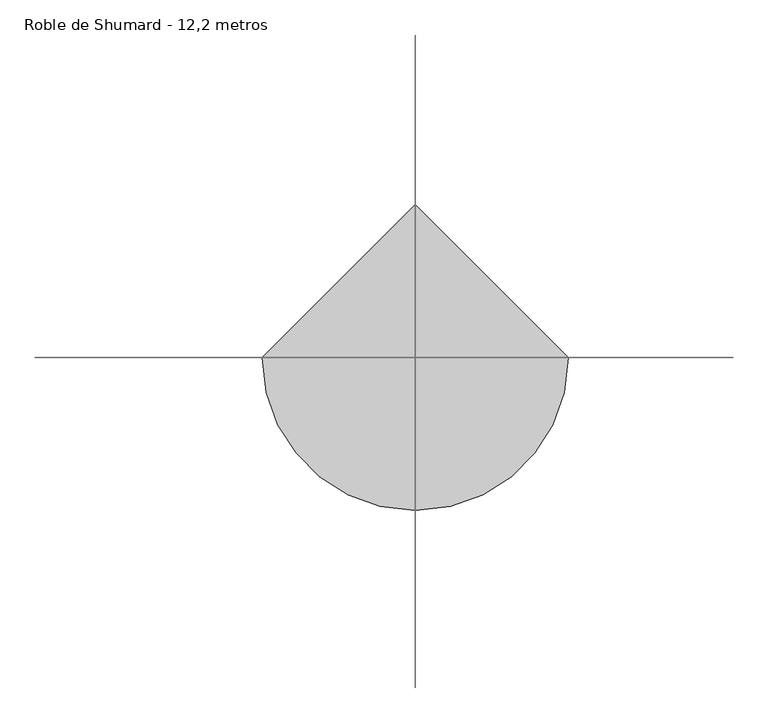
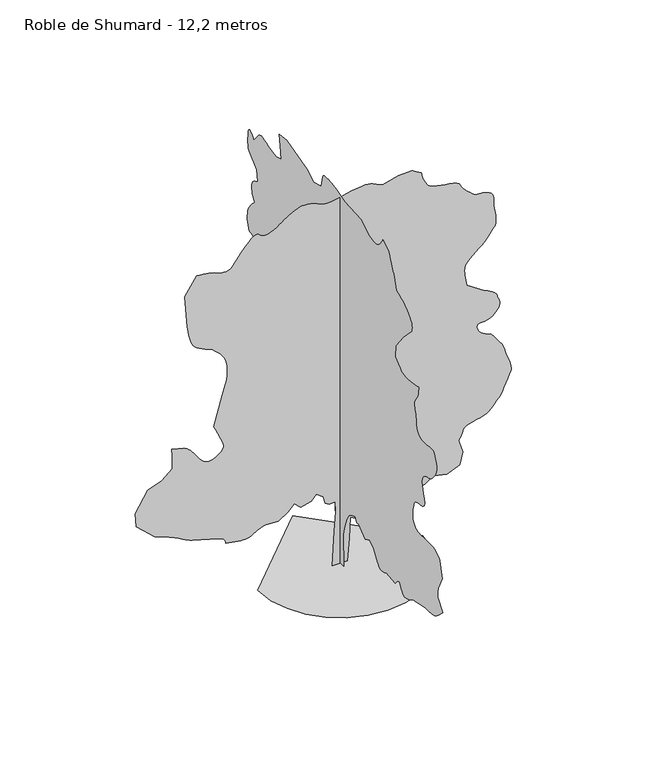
"""IFC4 building model written with IfcOpenShell, lengths in millimetres: geographic element geometry, RPC Árbol - Otoño : Roble de Shumard - 12,2 metros."""

from ifc_helpers import new_model, si_unit, origin, place, context, project, spatial, triangles, source, transform, mapped, element, save


def roble_de_shumard_12_2_metros_2cefd2b4(model_context):
    return source(origin(), model_context, "Body", "Tessellation", [
        triangles([(-0.0022625, 219.6431158, 0.0114771), (-0.0022625, -202.2794954, 0.0114771), (-0.0022625, -165.5900743, 1045.6450413), (-0.0022625, -238.967881, 1357.5020233), (-0.0022625, -349.0363624, 1651.0131775), (-0.0022625, -477.4462206, 1852.8008606), (-0.0022625, -624.2018703, 1944.5243317), (-0.0022625, -807.6463417, 2017.9021202), (-0.0022625, -881.0241302, 1852.8008606), (-0.0022625, -1009.4365683, 1889.4897549), (-0.0022625, -1156.1921453, 1742.7341778), (-0.0022625, -1357.9797558, 1614.3242832), (-0.0022625, -1596.4563332, 1724.390966), (-0.0022625, -1816.5898441, 1577.6353889), (-0.0022625, -1963.347892, 1320.813129), (-0.0022625, -1998.8601139, 1270.1095379), (-0.0022625, -2035.172723, 1221.8153927), (-0.0022625, -2073.0919201, 1178.3351252), (-0.0022625, -2113.4178017, 1142.0732397), (-0.0022625, -2156.9514816, 1115.4391096), (-0.0022625, -2204.4982887, 1100.8398554), (-0.0022625, -2256.8565754, 1100.6771473), (-0.0022625, -2307.0773472, 1109.6111223), (-0.0022625, -2348.6335316, 1120.4665644), (-0.0022625, -2382.9687904, 1132.9283037), (-0.0022625, -2411.5295471, 1146.673613), (-0.0022625, -2435.7565567, 1161.3822355), (-0.0022625, -2457.0965332, 1176.7312986), (-0.0022625, -2476.9900864, 1192.400691), (-0.0022625, -2953.9455666, 1137.368585), (-0.0022625, -3000.9665337, 1191.6508821), (-0.0022625, -3046.9959915, 1241.4421017), (-0.0022625, -3091.1191704, 1282.250948), (-0.0022625, -3132.3704315, 1309.5815472), (-0.0022625, -3169.7582657, 1318.9398422), (-0.0022625, -3202.3170341, 1305.8375896), (-0.0022625, -3229.1060966, 1265.7784069), (-0.0022625, -3256.0221863, 1208.176763), (-0.0022625, -3289.3434082, 1148.6510359), (-0.0022625, -3328.7392593, 1092.015176), (-0.0022625, -3373.9553947, 1043.0779741), (-0.0022625, -3424.5854439, 1006.6559967), (-0.0022625, -3480.3747711, 987.5629761), (-0.0022625, -3540.9681656, 990.6104645), (-0.0022625, -3601.7138763, 1008.4757984), (-0.0022625, -3658.62174, 1030.189226), (-0.0022625, -3712.3268921, 1055.1127773), (-0.0022625, -3763.4653404, 1082.6008524), (-0.0022625, -3812.6719299, 1112.0180248), (-0.0022625, -3860.5820869, 1142.7162237), (-0.0022625, -3907.8571083, 1174.0574793), (-0.0022625, -4568.2572052, 1302.4674465), (-0.0022625, -4650.6327003, 1302.6274658), (-0.0022625, -4731.8640793, 1303.7509438), (-0.0022625, -4810.8589668, 1306.8009029), (-0.0022625, -4886.4732468, 1312.7357151), (-0.0022625, -4957.6148346, 1322.5236351), (-0.0022625, -5023.1387421, 1337.1228893), (-0.0022625, -5081.9020157, 1357.5020233), (-0.0022625, -5138.5299545, 1386.9699921), (-0.0022625, -5198.0559723, 1427.026704), (-0.0022625, -5259.9963776, 1475.9104935), (-0.0022625, -5323.8680603, 1531.8524277), (-0.0022625, -5389.1634933, 1593.0912769), (-0.0022625, -5455.4245651, 1657.8578178), (-0.0022625, -5522.1687469, 1724.390966), (-0.0022625, -5265.3588409, 2017.9021202), (-0.0022625, -5257.7087265, 2072.8808865), (-0.0022625, -5251.3288834, 2127.5393234), (-0.0022625, -5247.5419052, 2181.5572472), (-0.0022625, -5247.5930649, 2234.6120029), (-0.0022625, -5252.7776321, 2286.3831161), (-0.0022625, -5264.3932022, 2336.5504028), (-0.0022625, -5283.6844666, 2384.7912083), (-0.0022625, -5485.4924973, 2806.7071701), (-0.0022625, -5357.0625458, 3320.3516899), (-0.0022625, -5347.0224609, 3334.5342545), (-0.0022625, -5317.0562668, 3370.8547119), (-0.0022625, -5267.544754, 3419.9848526), (-0.0022625, -5198.7675568, 3472.673497), (-0.0022625, -5111.0548874, 3519.5671463), (-0.0022625, -5004.7369583, 3551.3890411), (-0.0022625, -4880.1195648, 3558.8359703), (-0.0022625, -4741.2681564, 3553.0662643), (-0.0022625, -4598.2742683, 3550.8041931), (-0.0022625, -4460.38908, 3551.1346962), (-0.0022625, -4336.9405106, 3553.0662643), (-0.0022625, -4237.2564789, 3555.6335495), (-0.0022625, -4170.614035, 3557.8700409), (-0.0022625, -4146.3413887, 3558.8359703), (-0.0022625, -4132.1079552, 3568.5196815), (-0.0022625, -4095.4317055, 3595.8427231), (-0.0022625, -4045.2594772, 3638.2628082), (-0.0022625, -3990.588105, 3693.1882347), (-0.0022625, -3940.4411659, 3758.0514267), (-0.0022625, -3903.7396271, 3830.3109695), (-0.0022625, -3889.5061935, 3907.3742889), (-0.0022625, -3892.2005058, 3984.3864487), (-0.0022625, -3899.6730148, 4058.5269814), (-0.0022625, -3911.1612671, 4130.2525452), (-0.0022625, -3925.87752, 4200.0465408), (-0.0022625, -3943.0081604, 4268.3917877), (-0.0022625, -3961.7148674, 4335.7713959), (-0.0022625, -3981.2348969, 4402.667894), (-0.0022625, -3997.2728714, 4422.2640816), (-0.0022625, -4015.2424141, 4441.3521606), (-0.0022625, -4037.0750931, 4459.4740196), (-0.0022625, -4064.6777687, 4476.1727097), (-0.0022625, -4099.9558479, 4490.9145424), (-0.0022625, -4144.8926399, 4503.2922752), (-0.0022625, -4201.3682625, 4512.7472214), (-0.0022625, -4269.6626404, 4518.5169273), (-0.0022625, -4343.421801, 4525.252272), (-0.0022625, -4414.6136765, 4540.6548203), (-0.0022625, -4475.2070709, 4572.4255554), (-0.0022625, -4517.1952057, 4628.2660423), (-0.0022625, -4532.5215958, 4715.8769737), (-0.0022625, -4513.2303314, 4842.9346252), (-0.0022625, -4473.7074532, 4986.5898102), (-0.0022625, -4437.3869957, 5118.3747894), (-0.0022625, -4409.7337418, 5237.654718), (-0.0022625, -4396.2121834, 5343.7441727), (-0.0022625, -4402.2612328, 5436.0571426), (-0.0022625, -4433.3203835, 5513.9337845), (-0.0022625, -4494.8794167, 5576.7125107), (-0.0022625, -4570.3413803, 5620.6836639), (-0.0022625, -4640.3641411, 5647.6506226), (-0.0022625, -4706.1932625, 5665.2896622), (-0.0022625, -4769.1501755, 5681.3276367), (-0.0022625, -4830.4807343, 5703.465239), (-0.0022625, -4891.5060791, 5739.4299042), (-0.0022625, -4953.4970627, 5796.846167), (-0.0022625, -5016.6571609, 5869.9190323), (-0.0022625, -5076.920343, 5947.7956741), (-0.0022625, -5129.177037, 6030.7807251), (-0.0022625, -5168.2676743, 6119.2561386), (-0.0022625, -5189.0838455, 6213.4753876), (-0.0022625, -5186.4659821, 6313.8204254), (-0.0022625, -5155.2795135, 6420.5703049), (-0.0022625, -5117.6376251, 6521.5501877), (-0.0022625, -5092.1699936, 6603.9003937), (-0.0022625, -5068.6342209, 6667.0099136), (-0.0022625, -5036.7617477, 6710.2177414), (-0.0022625, -4986.2845963, 6732.9151932), (-0.0022625, -4906.9086273, 6734.4145203), (-0.0022625, -4788.3905708, 6714.081459), (-0.0022625, -4647.7857811, 6691.613063), (-0.0022625, -4512.6457741, 6687.1145004), (-0.0022625, -4388.3838821, 6700.6107697), (-0.0022625, -4280.515757, 6732.0507111), (-0.0022625, -4194.4803108, 6781.4610672), (-0.0022625, -4135.691748, 6848.8656738), (-0.0022625, -4109.6395592, 6934.214534), (-0.0022625, -4100.7183014, 7025.3589706), (-0.0022625, -4089.8654755, 7110.7078308), (-0.0022625, -4077.3860046, 7191.2529144), (-0.0022625, -4063.6609703, 7267.9348618), (-0.0022625, -4048.9447174, 7341.7448914), (-0.0022625, -4033.5930382, 7413.6230621), (-0.0022625, -4017.9364357, 7484.5355942), (-0.0022625, -4002.6864944, 7535.6737518), (-0.0022625, -3990.3340508, 7586.9648071), (-0.0022625, -3983.7510223, 7638.5854935), (-0.0022625, -3985.8351974, 7690.6642914), (-0.0022625, -3999.4840736, 7743.4040955), (-0.0022625, -4027.5439888, 7796.9310608), (-0.0022625, -4072.9636002, 7851.4242462), (-0.0022625, -4121.5091835, 7918.2957458), (-0.0022625, -4158.2107224, 8002.1452789), (-0.0022625, -4184.6187035, 8093.0606598), (-0.0022625, -4202.3850609, 8181.1035416), (-0.0022625, -4213.0852798, 8256.2861618), (-0.0022625, -4218.3212975, 8308.7201706), (-0.0022625, -4219.7191772, 8328.392807), (-0.0022625, -4192.6504807, 8322.3437576), (-0.0022625, -4120.0351456, 8306.9923691), (-0.0022625, -4014.6578568, 8286.5064102), (-0.0022625, -3889.4047462, 8265.0803925), (-0.0022625, -3757.085788, 8246.830925), (-0.0022625, -3630.5618248, 8235.9780991), (-0.0022625, -3522.6172508, 8236.6641037), (-0.0022625, -3431.4986847, 8252.549762), (-0.0022625, -3346.1242447, 8282.8717484), (-0.0022625, -3265.5788704, 8325.2412552), (-0.0022625, -3188.8969231, 8377.2183151), (-0.0022625, -3115.0871841, 8436.439119), (-0.0022625, -3043.2090134, 8500.4381195), (-0.0022625, -2972.2964813, 8566.8770874), (-0.0022625, -2990.6473961, 8952.1169449), (-0.0022625, -3394.2125885, 9465.7617554), (-0.0022625, -3852.8299438, 9942.7047363), (-0.0022625, -3859.9975296, 10001.8488007), (-0.0022625, -3862.9967651, 10062.1369812), (-0.0022625, -3857.6337204, 10124.6622345), (-0.0022625, -3839.7659157, 10190.5419342), (-0.0022625, -3805.2247101, 10260.9201965), (-0.0022625, -3749.8164642, 10336.9167206), (-0.0022625, -3669.3728279, 10419.6732971), (-0.0022625, -3575.0262611, 10499.1765839), (-0.0022625, -3480.7052742, 10566.1992371), (-0.0022625, -3386.3587074, 10622.777179), (-0.0022625, -3292.0121407, 10671.0184204), (-0.0022625, -3197.6655739, 10713.0065552), (-0.0022625, -3103.3192978, 10750.8263397), (-0.0022625, -3008.972731, 10786.5369507), (-0.0022625, -2981.4465042, 10880.6288818), (-0.0022625, -2953.7423813, 10973.0941681), (-0.0022625, -2925.7077553, 11062.3573242), (-0.0022625, -2897.1903099, 11146.8172852), (-0.0022625, -2868.063018, 11224.8462433), (-0.0022625, -2838.0968239, 11294.8431335), (-0.0022625, -2807.1899895, 11355.2336334), (-0.0022625, -2772.9031288, 11421.0621735), (-0.0022625, -2735.1086334, 11502.2944244), (-0.0022625, -2696.9580551, 11589.6507202), (-0.0022625, -2661.7308449, 11673.7804688), (-0.0022625, -2632.5779732, 11745.3784241), (-0.0022625, -2612.7274406, 11795.1695709), (-0.0022625, -2605.4075386, 11813.8509888), (-0.0022625, -2293.5480858, 11997.2828156), (-0.0022625, -2277.5558933, 11965.664978), (-0.0022625, -2259.9600197, 11933.1053375), (-0.0022625, -2239.1538769, 11898.6155823), (-0.0022625, -2213.5365452, 11861.2271667), (-0.0022625, -2181.5014366, 11819.9761963), (-0.0022625, -2141.4422539, 11773.9464478), (-0.0022625, -2091.7577866, 11722.1228668), (-0.0022625, -2031.9118755, 11677.2372345), (-0.0022625, -1963.4013771, 11650.6760651), (-0.0022625, -1887.6699532, 11639.3151306), (-0.0022625, -1806.1614109, 11640.1790314), (-0.0022625, -1720.3217377, 11650.1935364), (-0.0022625, -1631.594886, 11666.2820892), (-0.0022625, -1541.4243725, 11685.4204559), (-0.0022625, -1137.8464628, 11960.5815674), (-0.0022625, -257.3128368, 12015.634021), (-0.0022625, -143.5556452, 12046.9216461), (-0.0022625, -31.2426242, 12077.2430511), (-0.0022625, 78.1820465, 12105.6343414), (-0.0022625, 183.2749686, 12131.1525513), (-0.0022625, 282.5922167, 12152.8070435), (-0.0022625, 374.689375, 12169.6583405), (-0.0022625, 458.1194206, 12180.7402222), (-0.0022625, 540.3752646, 12189.1780792), (-0.0022625, 626.4842165, 12196.6764587), (-0.0022625, 711.307164, 12199.9809082), (-0.0022625, 789.7123346, 12195.9137146), (-0.0022625, 856.563196, 12181.2739105), (-0.0022625, 906.7304827, 12152.8070435), (-0.0022625, 935.0776623, 12107.3365631), (-0.0022625, 1026.7986626, 11740.4729095), (-0.0022625, 1430.3764996, 11630.3935822), (-0.0022625, 1797.2655876, 11850.5278198), (-0.0022625, 2255.8780014, 11960.5815674), (-0.0022625, 2861.2512245, 12144.038974), (-0.0022625, 3264.8164169, 12089.0109375), (-0.0022625, 3228.1401672, 11740.4729095), (-0.0022625, 3154.7623787, 11336.882428), (-0.0022625, 3448.2735329, 11245.154306), (-0.0022625, 3741.7849777, 11300.1811798), (-0.0022625, 3855.2702019, 11342.8297394), (-0.0022625, 3965.7053215, 11381.7424805), (-0.0022625, 4070.0405228, 11413.310321), (-0.0022625, 4165.251281, 11433.7962799), (-0.0022625, 4248.2619118, 11439.5145355), (-0.0022625, 4316.0226013, 11426.7815918), (-0.0022625, 4365.4835358, 11391.9093018), (-0.0022625, 4640.6437752, 11061.7224792), (-0.0022625, 4703.1687378, 11134.820343), (-0.0022625, 4763.4569183, 11198.4641327), (-0.0022625, 4819.2209564, 11243.1718689), (-0.0022625, 4868.2752296, 11259.4894775), (-0.0022625, 4908.3317963, 11237.936142), (-0.0022625, 4937.1544556, 11169.0566254), (-0.0022625, 4952.5058441, 11043.3712738), (-0.0022625, 4957.1573044, 10903.7832825), (-0.0022625, 4956.038768, 10795.9666077), (-0.0022625, 4950.1164551, 10714.6076202), (-0.0022625, 4940.3060074, 10654.4461761), (-0.0022625, 4927.6486404, 10610.1709717), (-0.0022625, 4913.0338348, 10576.4683777), (-0.0022625, 4897.4789703, 10548.0782501), (-0.0022625, 4475.5628632, 10199.5146423), (-0.0022625, 4438.8613243, 9814.2997833), (-0.0022625, 4497.5481491, 9790.3826385), (-0.0022625, 4554.4307236, 9764.5597961), (-0.0022625, 4607.8056633, 9734.8726547), (-0.0022625, 4655.8937164, 9699.4166794), (-0.0022625, 4696.9162125, 9656.2588486), (-0.0022625, 4729.1191887, 9603.4690475), (-0.0022625, 4750.7231026, 9539.1136734), (-0.0022625, 4758.9583557, 9468.3796188), (-0.0022625, 4753.7223381, 9397.6194031), (-0.0022625, 4737.2524132, 9326.8597687), (-0.0022625, 4711.7850723, 9256.0995529), (-0.0022625, 4679.5820961, 9185.3399185), (-0.0022625, 4642.9058464, 9114.5802841), (-0.0022625, 4603.9675255, 9043.8200684), (-0.0022625, 4662.6799301, 8984.8283203), (-0.0022625, 4719.9691658, 8925.6836746), (-0.0022625, 4774.3606133, 8866.2088165), (-0.0022625, 4824.4313942, 8806.2508484), (-0.0022625, 4868.70718, 8745.6574539), (-0.0022625, 4905.7645111, 8684.2763168), (-0.0022625, 4934.15522, 8621.9039612), (-0.0022625, 4954.5394409, 8561.1582504), (-0.0022625, 4969.1536652, 8504.2506775), (-0.0022625, 4978.9391144, 8450.5452347), (-0.0022625, 4984.8614273, 8399.407077), (-0.0022625, 4987.9112411, 8350.2001968), (-0.0022625, 4989.0297775, 8302.2903305), (-0.0022625, 4989.2076736, 8255.0153091), (-0.0022625, 4879.1277649, 7943.1529495), (-0.0022625, 4828.0660561, 7934.9691467), (-0.0022625, 4777.1310837, 7924.8784836), (-0.0022625, 4726.5519035, 7910.8996857), (-0.0022625, 4676.4305443, 7891.1758896), (-0.0022625, 4626.9696098, 7863.7264023), (-0.0022625, 4578.2967087, 7826.6687805), (-0.0022625, 4530.5897369, 7778.0467484), (-0.0022625, 4487.1528534, 7720.3508514), (-0.0022625, 4450.4766037, 7657.8261795), (-0.0022625, 4419.3921638, 7591.3110535), (-0.0022625, 4392.8062866, 7521.5676361), (-0.0022625, 4369.601017, 7449.4098312), (-0.0022625, 4348.6322388, 7375.6509613), (-0.0022625, 4328.8072861, 7301.1037674), (-0.0022625, 4285.8532219, 7242.1120193), (-0.0022625, 4244.6781189, 7182.9673737), (-0.0022625, 4207.0106506, 7123.4925156), (-0.0022625, 4174.6553581, 7063.5345474), (-0.0022625, 4149.3659134, 7002.941153), (-0.0022625, 4132.8959885, 6941.5350174), (-0.0022625, 4126.9992554, 6879.1876602), (-0.0022625, 4145.3501701, 6383.8684753), (-0.0022625, 4188.3042343, 6379.5478088), (-0.0022625, 4229.4790466, 6372.8121735), (-0.0022625, 4267.1465149, 6361.2477631), (-0.0022625, 4299.5018074, 6342.4901871), (-0.0022625, 4324.7915428, 6314.0744797), (-0.0022625, 4341.2614677, 6273.6618301), (-0.0022625, 4347.132621, 6218.7872726), (-0.0022625, 4345.5312653, 6155.3475403), (-0.0022625, 4341.0579918, 6090.9671677), (-0.0022625, 4334.144751, 6025.7734726), (-0.0022625, 4325.3252312, 5959.9193527), (-0.0022625, 4315.0569626, 5893.6071213), (-0.0022625, 4303.8227646, 5826.9646774), (-0.0022625, 4292.1057472, 5760.1699173), (-0.0022625, 4273.7548325, 5393.2806839), (-0.0022625, 4622.3184402, 5411.6318893), (-0.0022625, 5007.5327179, 5485.0093872), (-0.0022625, 5089.5271317, 5457.254686), (-0.0022625, 5168.1403564, 5428.0506546), (-0.0022625, 5240.0441071, 5395.949707), (-0.0022625, 5301.8066162, 5359.5275116), (-0.0022625, 5350.0978546, 5317.3359009), (-0.0022625, 5381.5383774, 5267.9261261), (-0.0022625, 5392.7725754, 5209.8238586), (-0.0022625, 5389.5698639, 5136.2428848), (-0.0022625, 5380.5727386, 5043.3956451), (-0.0022625, 5366.7968353, 4934.5110123), (-0.0022625, 5349.1322159, 4812.790535), (-0.0022625, 5328.5956787, 4681.4375061), (-0.0022625, 5306.1272827, 4543.6540558), (-0.0022625, 5282.7188278, 4402.667894), (-0.0022625, 5117.6120453, 3962.4011627), (-0.0022625, 5027.4338287, 3911.8219826), (-0.0022625, 4938.704361, 3864.2676178), (-0.0022625, 4852.8726814, 3822.8131714), (-0.0022625, 4771.3616684, 3790.5084572), (-0.0022625, 4695.6453598, 3770.4038704), (-0.0022625, 4627.1222168, 3765.5495155), (-0.0022625, 4567.2659866, 3778.9693359), (-0.0022625, 4053.6214668, 3999.1027016), (-0.0022625, 3539.976947, 3833.9965004), (-0.0022625, 3173.0877136, 3577.1868851), (-0.0022625, 2806.1987709, 3026.8405357), (-0.0022625, 2770.6919266, 2972.1438744), (-0.0022625, 2734.3967583, 2919.3537827), (-0.0022625, 2696.4752357, 2870.4012474), (-0.0022625, 2656.139035, 2827.2437073), (-0.0022625, 2612.6004135, 2791.7877319), (-0.0022625, 2565.0713379, 2765.9643082), (-0.0022625, 2512.7004066, 2751.6802963), (-0.0022625, 2460.4463287, 2746.9273888), (-0.0022625, 2411.4049908, 2747.283181), (-0.0022625, 2362.0407074, 2751.1971863), (-0.0022625, 2308.8259323, 2757.0177612), (-0.0022625, 2248.2302124, 2763.1685486), (-0.0022625, 2176.7230946, 2768.0484833), (-0.0022625, 2090.7767418, 2770.0309204), (-0.0022625, 1998.5727768, 2763.0668106), (-0.0022625, 1910.2195942, 2743.5976501), (-0.0022625, 1825.0763901, 2713.7076141), (-0.0022625, 1742.5003258, 2675.4555885), (-0.0022625, 1661.8482719, 2630.9766174), (-0.0022625, 1582.4798607, 2582.3037163), (-0.0022625, 1503.7542881, 2531.54664), (-0.0022625, 1393.6876053, 2219.6898033), (-0.0022625, 1081.8332394, 1871.1465431), (-0.0022625, 1038.7800533, 1824.5095642), (-0.0022625, 988.986363, 1778.8358986), (-0.0022625, 933.5781172, 1733.9629108), (-0.0022625, 873.678721, 1689.7329071), (-0.0022625, 810.4091091, 1645.9857227), (-0.0022625, 744.8926867, 1602.5563969), (-0.0022625, 678.2554024, 1559.2897064), (-0.0022625, 568.1886832, 1944.5243317), (-0.0022625, 384.7416321, 2201.3467369), (-0.0022625, 311.366387, 2036.245332), (-0.0022625, 256.3317557, 1779.4230721), (-0.0022625, 237.9878172, 1320.813129), (-0.0022625, 201.2984143, 678.7560986), (227.2986078, 0.0005818, 0.0290512), (-249.6563274, 0.0005818, 0.0290512), (-176.2793019, 0.0005163, 1100.6949514), (-139.5901442, 0.0004777, 1742.7519093), (-157.9346004, 0.0004581, 2072.952103), (-341.3808703, 0.0004592, 2054.6088913), (-469.7907649, 0.000455, 2127.9866798), (-524.8228346, 0.0004406, 2366.4632572), (-744.9587437, 0.0004319, 2513.2189796), (-891.7143934, 0.0004417, 2348.1175747), (-1221.9118984, 0.0004473, 2256.3965744), (-1423.7021976, 0.0004364, 2439.8411911), (-1625.4898808, 0.0004483, 2238.0508919), (-1919.0010349, 0.0004592, 2054.6088913), (-2359.2703823, 0.0004581, 2072.952103), (-2579.4062187, 0.0004637, 1981.2284866), (-2626.6812401, 0.0004658, 1946.0925499), (-2674.5916878, 0.0004679, 1912.3978043), (-2723.7982773, 0.0004697, 1881.5928532), (-2774.9364349, 0.0004711, 1855.1188877), (-2828.6415871, 0.0004725, 1834.4220406), (-2885.5241615, 0.0004732, 1820.9436481), (-2946.2951614, 0.0004735, 1816.1296978), (-3014.0052727, 0.0004735, 1818.2698288), (-3090.3820061, 0.0004732, 1824.2579807), (-3173.9774849, 0.0004725, 1833.4588726), (-3263.342379, 0.0004718, 1845.2241428), (-3357.0279396, 0.0004711, 1858.9160397), (-3453.6365776, 0.00047, 1873.8915791), (-3551.6683846, 0.0004693, 1889.5076317), (-3556.192527, 0.0004669, 1928.7101807), (-3564.4530693, 0.0004644, 1967.2697456), (-3580.0588028, 0.0004623, 2004.5482841), (-3606.746418, 0.0004602, 2039.9003414), (-3648.2008644, 0.0004581, 2072.6851135), (-3708.0823837, 0.0004564, 2102.2599072), (-3790.1273758, 0.000455, 2127.9866798), (-4597.2830498, 0.0004406, 2366.4632572), (-4663.1883293, 0.0004396, 2387.3760796), (-4733.5668823, 0.0004378, 2416.9508732), (-4806.1822174, 0.0004357, 2452.6229691), (-4878.8231323, 0.0004333, 2491.8258087), (-4949.2013947, 0.0004308, 2531.991671), (-5015.1072556, 0.0004287, 2570.5614098), (-5074.2513199, 0.0004266, 2604.9500084), (-5137.8439499, 0.0004245, 2637.9915962), (-5216.8385468, 0.0004224, 2673.9306816), (-5308.668988, 0.00042, 2712.2844452), (-5410.7674072, 0.0004179, 2752.5444878), (-5520.5676819, 0.0004154, 2794.2785683), (-5635.5013641, 0.0004126, 2836.9529984), (-5753.0023315, 0.0004101, 2880.1102478), (-6321.6740158, 0.0003783, 3412.1056824), (-6358.3502655, 0.000352, 3852.3727043), (-5973.1359879, 0.0003149, 4476.0712624), (-5532.8692566, 0.0003051, 4641.1774635), (-5202.6562729, 0.0002886, 4916.3377029), (-5202.6562729, 0.0002637, 5338.2538101), (-5221.006897, 0.0002504, 5558.3874664), (-4835.7673302, 0.000256, 5466.684343), (-4792.4066048, 0.0002578, 5438.7005859), (-4748.2069771, 0.0002595, 5407.9972275), (-4702.4315735, 0.0002616, 5371.8546661), (-4654.2417824, 0.0002641, 5327.5027222), (-4602.8492798, 0.0002676, 5272.2723724), (-4547.4410339, 0.0002718, 5203.3934372), (-4487.2290115, 0.0002767, 5118.1207352), (-4426.2036667, 0.000282, 5028.5523651), (-4367.4151039, 0.0002869, 4949.5577682), (-4308.6518303, 0.0002907, 4882.7624268), (-4247.6264854, 0.0002939, 4829.7435699), (-4182.102578, 0.0002963, 4792.1522598), (-4109.8430351, 0.0002974, 4771.5648537), (-4028.6113655, 0.0002974, 4769.5824165), (-3939.7804504, 0.0002963, 4789.9157684), (-3850.3138184, 0.0002939, 4831.0905807), (-3766.2863892, 0.0002904, 4887.032515), (-3693.823661, 0.0002865, 4951.6419434), (-3638.9999725, 0.0002827, 5018.8180756), (-3607.9155327, 0.0002788, 5082.4612839), (-3606.695549, 0.0002756, 5136.4713593), (-3628.2997536, 0.0002721, 5194.8788406), (-3660.5024391, 0.0002676, 5273.4926468), (-3701.5249352, 0.0002616, 5368.9571686), (-3749.5876991, 0.0002553, 5477.918541), (-3802.9626389, 0.0002483, 5596.9699951), (-3859.8705025, 0.0002406, 5722.7565033), (-3918.557618, 0.0002329, 5851.8986206), (-3661.7224228, 0.0001772, 6787.4845367), (-3626.5966599, 0.0001709, 6893.3699341), (-3592.8943565, 0.0001646, 6997.8327438), (-3562.0892601, 0.0001587, 7099.3974747), (-3535.6051208, 0.0001527, 7196.6159592), (-3514.9159767, 0.0001475, 7288.0650284), (-3501.4452873, 0.0001422, 7372.2959335), (-3496.6159309, 0.000138, 7447.8849243), (-3497.8614944, 0.0001334, 7521.6182144), (-3501.9789757, 0.0001289, 7599.8762283), (-3509.6293808, 0.000124, 7680.3707336), (-3521.4481361, 0.0001191, 7760.865239), (-3538.070668, 0.0001145, 7839.097673), (-3560.157692, 0.00011, 7912.856543), (-3588.3446342, 0.0001061, 7979.8547791), (-3624.6142227, 0.0001023, 8042.2271347), (-3669.5254349, 9.88e-05, 8103.6338516), (-3721.6803909, 9.53e-05, 8164.2266647), (-3779.6047623, 9.14e-05, 8224.1846329), (-3841.8500908, 8.79e-05, 8283.6344925), (-3906.9929169, 8.44e-05, 8342.8041367), (-3973.5844917, 8.09e-05, 8401.7958847), (-4079.2667038, 7.85e-05, 8445.1060318), (-4182.2040253, 7.57e-05, 8488.8987076), (-4279.7024345, 7.32e-05, 8533.6831833), (-4369.0417488, 7.04e-05, 8579.8902466), (-4447.4264992, 6.76e-05, 8628.0297501), (-4512.213533, 6.44e-05, 8678.5580612), (-4560.6068001, 6.13e-05, 8731.9832886), (-4598.6809296, 5.71e-05, 8803.2266144), (-4633.8831413, 5.15e-05, 8899.8096725), (-4665.5265587, 4.48e-05, 9011.1598526), (-4693.0274963, 3.78e-05, 9126.6783829), (-4715.6990776, 3.12e-05, 9235.7920715), (-4732.931456, 2.59e-05, 9327.8765671), (-4744.0386269, 2.21e-05, 9392.3836761), (-4817.4164154, -3.92e-05, 10419.6732971), (-4450.5274727, -7.32e-05, 10988.3444), (-4352.4956657, -7.25e-05, 10976.4241974), (-4255.9123169, -7.18e-05, 10963.6900909), (-4162.2011765, -7.08e-05, 10949.3549194), (-4072.8362823, -6.97e-05, 10932.6315216), (-3989.2410942, -6.86e-05, 10912.6792511), (-3912.88965, -6.72e-05, 10888.7109467), (-3845.1795387, -6.55e-05, 10859.939447), (-3776.3261833, -6.37e-05, 10832.1341675), (-3698.8306229, -6.27e-05, 10812.6644257), (-3617.497506, -6.2e-05, 10803.1336121), (-3537.1047386, -6.23e-05, 10805.1672089), (-3462.5069664, -6.3e-05, 10820.3662811), (-3398.482386, -6.48e-05, 10850.3063141), (-3349.8603539, -6.76e-05, 10896.6418579), (-3056.3491997, -9.07e-05, 11281.8555542), (-2977.9644493, -9.6e-05, 11371.601239), (-2900.8249718, -0.0001012, 11457.3320526), (-2826.2780685, -0.0001058, 11535.0563782), (-2755.5690125, -0.0001096, 11600.7326019), (-2689.9939453, -0.0001128, 11650.3714325), (-2630.8495903, -0.0001145, 11679.9312561), (-2579.4062187, -0.0001149, 11685.4460358), (-2538.0075829, -0.0001138, 11671.6445526), (-2504.3128372, -0.0001124, 11649.1773193), (-2472.5447182, -0.000111, 11622.8707855), (-2436.9258167, -0.0001096, 11597.5304718), (-2391.6791599, -0.0001082, 11577.9339935), (-2331.0324257, -0.0001079, 11568.9624481), (-2249.2036995, -0.0001082, 11575.3667084), (-2151.4361206, -0.00011, 11603.1975677), (-2051.1038727, -0.0001124, 11649.6086884), (-1954.6199364, -0.0001159, 11706.3133667), (-1868.4067394, -0.0001194, 11764.9237427), (-1798.8794426, -0.0001226, 11817.1298584), (-1752.4585842, -0.0001247, 11854.542691), (-1735.5565636, -0.0001257, 11868.8778625), (-1714.8597164, -0.0001264, 11882.1456573), (-1659.8251396, -0.0001285, 11916.5854156), (-1581.0463726, -0.0001313, 11964.1906494), (-1489.1092518, -0.0001345, 12016.9304535), (-1394.6077526, -0.0001373, 12066.7715973), (-1308.1277115, -0.0001398, 12105.7099182), (-1240.2575809, -0.0001408, 12125.7133484), (-1175.8646364, -0.0001412, 12130.1607513), (-1095.7488871, -0.0001412, 12127.5178894), (-1004.4014832, -0.0001405, 12117.5289642), (-906.3136477, -0.0001394, 12099.8137665), (-805.9815451, -0.000138, 12074.0920807), (-707.8937096, -0.0001359, 12040.0336945), (-616.5463783, -0.0001334, 11997.3083954), (-519.3684073, -0.0001313, 11962.4372681), (-402.9373964, -0.0001306, 11949.7031616), (-270.4608533, -0.0001306, 11955.4214172), (-125.1499373, -0.000132, 11975.9073761), (29.7882867, -0.0001338, 12007.4496368), (191.1444737, -0.0001362, 12046.3879578), (355.7107733, -0.0001387, 12089.0109375), (469.3052931, -0.0001398, 12104.4134857), (580.4954175, -0.0001405, 12117.9103363), (686.8715916, -0.0001412, 12127.5178894), (786.0294926, -0.0001412, 12131.3804443), (875.5570221, -0.0001412, 12127.5178894), (953.0548353, -0.0001401, 12114.0466187), (1016.1109428, -0.0001387, 12089.0109375), (1069.0029905, -0.0001369, 12059.7057495), (1118.0468719, -0.0001355, 12034.2642792), (1163.8807022, -0.0001341, 12011.9993591), (1207.1499361, -0.0001331, 11992.3261414), (1248.4900726, -0.000132, 11974.5609467), (1288.5492554, -0.000131, 11958.0910217), (1327.9653088, -0.0001299, 11942.2559418), (1804.9210796, -0.0001376, 12070.6864746), (2226.8445992, -0.0001387, 12089.0109375), (2520.3557533, -0.0001289, 11923.9303162), (2524.5802048, -0.0001264, 11880.4934326), (2530.5708275, -0.0001236, 11835.9380127), (2540.0894325, -0.0001208, 11789.1466827), (2554.9048073, -0.000118, 11738.9741638), (2576.7883553, -0.0001145, 11684.3274994), (2607.4661339, -0.000111, 11624.0393188), (2648.768264, -0.0001072, 11557.0410828), (2690.2735794, -0.0001033, 11495.6855255), (2724.713047, -0.0001009, 11450.3929413), (2758.517379, -9.88e-05, 11416.9705627), (2798.0908356, -9.7e-05, 11391.248877), (2849.8647102, -9.6e-05, 11369.0351166), (2920.2432632, -9.46e-05, 11346.2109283), (3015.6572067, -9.28e-05, 11318.5568024), (3133.2599121, -9.14e-05, 11291.9212189), (3260.1652473, -9e-05, 11271.7143127), (3387.7312981, -8.9e-05, 11253.0840546), (3507.2655716, -8.76e-05, 11231.2760834), (3610.1014458, -8.58e-05, 11201.437207), (3687.5967155, -8.34e-05, 11158.7374878), (3731.0844681, -7.99e-05, 11098.4237274), (3763.2365753, -7.57e-05, 11028.1977814), (3810.7909401, -7.15e-05, 10958.9368927), (3871.1555695, -6.72e-05, 10890.4910706), (3941.8137566, -6.34e-05, 10822.6533508), (4020.1732178, -5.92e-05, 10755.3249023), (4103.6413788, -5.53e-05, 10688.3266663), (4189.7021141, -5.11e-05, 10621.4551666), (4310.7360054, -5.04e-05, 10609.0524353), (4426.788224, -4.97e-05, 10592.9638824), (4532.9026772, -4.83e-05, 10569.4781067), (4624.0721123, -4.62e-05, 10534.9371918), (4695.3657257, -4.31e-05, 10485.6285736), (4741.8021355, -3.92e-05, 10417.8687561), (4758.3735077, -3.4e-05, 10327.9440125), (4759.4411751, -2.84e-05, 10234.3090302), (4762.4404106, -2.35e-05, 10156.052179), (4767.0407112, -1.96e-05, 10090.6550079), (4772.9374443, -1.65e-05, 10035.5258148), (4779.774527, -1.37e-05, 9988.0728973), (4787.247036, -1.09e-05, 9945.78013), (4795.0753372, -8.8e-06, 9906.0279053), (4810.4270164, -3.2e-06, 9812.0127136), (4823.5163338, 2.5e-06, 9719.9026382), (4832.1326683, 7.7e-06, 9631.6556992), (4834.0136581, 1.26e-05, 9549.2043365), (4826.8969414, 1.72e-05, 9474.4286682), (4808.5460266, 2.1e-05, 9409.2855515), (4776.7244225, 2.42e-05, 9355.7074265), (4736.1341675, 2.73e-05, 9304.3152145), (4692.3159119, 3.08e-05, 9245.5263611), (4644.3545952, 3.47e-05, 9180.9680923), (4591.2340004, 3.85e-05, 9112.2414734), (4532.0384857, 4.27e-05, 9040.9481506), (4465.7774139, 4.73e-05, 8968.6886078), (4391.484565, 5.15e-05, 8897.0900711), (4305.2206444, 5.6e-05, 8823.2294632), (4209.0186676, 6.06e-05, 8744.234285), (4110.8595428, 6.55e-05, 8661.7067642), (4018.826207, 7.04e-05, 8577.2723831), (3940.8986961, 7.57e-05, 8492.4827911), (3885.1090782, 8.06e-05, 8409.0146301), (3859.4891304, 8.55e-05, 8328.4183868), (3855.3716492, 9e-05, 8248.7116241), (3858.0150925, 9.49e-05, 8167.0991638), (3866.2500549, 9.98e-05, 8083.8850571), (3878.9582909, 0.0001051, 7999.3745178), (3895.0724236, 0.00011, 7913.9239197), (3913.3980492, 0.0001152, 7827.8123154), (3932.8669189, 0.0001205, 7741.3960785), (4483.2132683, 0.0001422, 7374.5068451), (4504.5378387, 0.0001429, 7364.9754501), (4559.5902924, 0.0001443, 7338.7712357), (4634.8234909, 0.0001468, 7299.4009644), (4716.8173233, 0.0001496, 7250.42314), (4792.0761017, 0.0001531, 7195.3195267), (4847.1029755, 0.0001562, 7137.6747894), (4868.4531258, 0.0001597, 7080.9956909), (4879.890509, 0.0001629, 7027.4431458), (4906.0953049, 0.000166, 6973.9155991), (4934.8668045, 0.0001695, 6915.8894897), (4954.0051712, 0.0001737, 6848.8656738), (4951.3367294, 0.0001783, 6768.3711685), (4914.6604797, 0.0001842, 6669.9324097), (4831.7512962, 0.0001916, 6549.0002563), (4717.4021713, 0.0001975, 6446.0885147), (4599.8500443, 0.0002007, 6392.9423401), (4487.1272736, 0.0002021, 6371.8721146), (4387.2147675, 0.0002024, 6365.2382172), (4308.1690109, 0.0002031, 6355.4021896), (4257.996492, 0.0002049, 6324.6988312), (4244.7289879, 0.0002091, 6255.4891022), (4263.817067, 0.000214, 6169.1740219), (4303.1364693, 0.0002182, 6097.2958511), (4359.2818794, 0.0002221, 6037.4402023), (4428.9232681, 0.0002249, 5987.2165237), (4508.6806091, 0.0002273, 5944.2115906), (4595.1480057, 0.0002298, 5906.0360138), (4684.9957191, 0.0002319, 5870.2492447), (4774.7928543, 0.0002385, 5756.6625732), (4860.9041679, 0.0002452, 5645.4647095), (4939.6194214, 0.0002515, 5539.0962021), (5007.2786636, 0.0002574, 5439.9458588), (5060.170784, 0.000263, 5350.4030685), (5094.6099609, 0.0002676, 5272.9077988), (5106.912117, 0.0002711, 5209.8494385), (5121.9077133, 0.0002756, 5134.4377625), (5159.3461258, 0.0002823, 5026.6205063), (5207.9937378, 0.0002897, 4898.9021393), (5256.6663483, 0.0002977, 4763.8127106), (5294.1053421, 0.0003054, 4633.8575615), (5309.0759399, 0.0003124, 4521.541452), (5290.3689423, 0.0003173, 4439.3950127), (5246.880899, 0.0003219, 4358.265081), (5196.3531693, 0.0003285, 4248.566835), (5140.6652893, 0.0003362, 4122.1701897), (5081.7746979, 0.0003439, 3990.9947662), (5021.6138351, 0.0003513, 3866.8601921), (4962.0878174, 0.0003576, 3761.6605087), (4905.1290848, 0.0003622, 3687.2662125), (4849.8990257, 0.0003657, 3628.3250427), (4793.3469543, 0.0003695, 3563.9446701), (4734.2531776, 0.0003734, 3497.6074402), (4671.3215538, 0.0003772, 3432.8965645), (4603.2306519, 0.0003807, 3373.3199684), (4528.7343269, 0.0003839, 3322.4105759), (4446.5117294, 0.000386, 3283.6754402), (4349.3438232, 0.0003877, 3254.9548096), (4237.4090858, 0.0003895, 3229.1313858), (4120.6449921, 0.0003909, 3202.3423233), (4009.0407578, 0.0003926, 3170.7241951), (3912.5082779, 0.0003951, 3130.4641525), (3840.9858994, 0.0003982, 3077.6737701), (3804.4622566, 0.0004024, 3008.5152008), (3784.8913582, 0.0004066, 2939.2040245), (3760.1864708, 0.0004098, 2885.2953964), (3734.1851509, 0.0004122, 2841.98554), (3710.776696, 0.0004147, 2804.4198097), (3693.7475029, 0.0004168, 2767.845298), (3687.0121582, 0.0004193, 2727.4073593), (3694.4082184, 0.0004221, 2678.3277969), (3804.4622566, 0.0004431, 2329.7743629), (3712.7335533, 0.0004669, 1926.196526), (3309.1683609, 0.0004767, 1761.0977371), (2905.5778793, 0.0004714, 1852.8185921), (2502.0100708, 0.0004865, 1595.9963322), (2208.4989166, 0.0004767, 1761.0977371), (1786.5752518, 0.0004658, 1944.5395924), (1758.9270847, 0.0004669, 1928.4433365), (1730.4731529, 0.0004679, 1910.0975086), (1700.4155399, 0.0004693, 1887.2606758), (1667.9534225, 0.0004711, 1857.6858822), (1632.2785652, 0.0004732, 1819.1238464), (1592.5956676, 0.0004763, 1769.3326996), (1548.0986744, 0.0004802, 1706.063015), (1501.4616955, 0.000484, 1639.5833519), (1455.7880299, 0.0004876, 1580.8074337), (1410.9175129, 0.0004907, 1528.449147), (1366.6875092, 0.0004935, 1481.2225239), (1322.937854, 0.000496, 1437.8490086), (1279.5111443, 0.0004984, 1397.0426331), (1236.2443085, 0.0005009, 1357.5197548), (1291.2764145, 0.000524, 972.2850569), (1259.6683147, 0.0005247, 960.6798059), (1227.0969017, 0.000525, 950.1954895), (1192.6014782, 0.0005257, 941.960527), (1155.2186583, 0.0005261, 937.0932369), (1113.9827305, 0.0005261, 936.7195679), (1067.932925, 0.0005257, 941.960527), (1016.1109428, 0.000525, 953.9393744), (962.1463589, 0.0005236, 973.9422232), (910.1084015, 0.0005222, 1001.6463461), (859.674198, 0.0005201, 1035.7681732), (810.5234917, 0.0005177, 1075.0241346), (762.3360987, 0.0005152, 1118.1307331), (714.7917624, 0.0005124, 1163.8043987), (667.5651392, 0.0005096, 1210.7616343), (319.0193356, 0.0004988, 1394.2086491), (282.3329666, 0.000539, 715.462797), (-2557.3447746, 0.0, 0.0), (-2489.7390175, -585.9752429, 0.0), (-2297.1927761, -1124.0986101, 0.0), (-1995.1238594, -1598.9548725, 0.0), (-1598.9548725, -1995.1238594, 0.0), (-1124.0986101, -2297.1903053, 0.0), (-585.9752429, -2489.7390175, 0.0), (0.0001118, -2557.3447746, 0.0), (585.9752429, -2489.7390175, 0.0), (1124.0986101, -2297.1927761, 0.0), (1598.9548725, -1995.1238594, 0.0), (1995.1238594, -1598.9548725, 0.0), (2297.1927761, -1124.0986101, 0.0), (2489.7390175, -585.9752429, 0.0), (2557.3447746, 0.0002235, 0.0), (-0.0003354, 2557.3447746, 0.0)], [[407, 408, 409], [173, 174, 175], [406, 407, 409], [219, 220, 221], [1, 2, 3], [414, 1, 3], [413, 414, 3], [413, 3, 4], [412, 413, 4], [412, 4, 5], [255, 256, 257], [219, 221, 222], [65, 66, 67], [405, 406, 409], [8, 9, 10], [219, 222, 223], [404, 405, 409], [64, 65, 67], [412, 5, 6], [411, 412, 6], [403, 404, 409], [219, 223, 224], [172, 173, 175], [172, 175, 176], [171, 172, 176], [171, 176, 177], [170, 171, 177], [254, 255, 257], [254, 257, 258], [402, 403, 409], [63, 64, 67], [218, 219, 224], [401, 402, 409], [218, 224, 225], [217, 218, 225], [312, 313, 314], [216, 217, 225], [216, 225, 226], [170, 177, 178], [169, 170, 178], [168, 169, 178], [167, 168, 178], [167, 178, 179], [166, 167, 179], [166, 179, 180], [165, 166, 180], [11, 12, 13], [216, 226, 227], [215, 216, 227], [400, 401, 409], [400, 409, 410], [399, 400, 410], [29, 30, 31], [62, 63, 67], [214, 215, 227], [214, 227, 228], [410, 411, 6], [410, 6, 7], [165, 180, 181], [164, 165, 181], [312, 314, 315], [61, 62, 67], [213, 214, 228], [60, 61, 67], [59, 60, 67], [58, 59, 67], [57, 58, 67], [56, 57, 67], [55, 56, 67], [54, 55, 67], [53, 54, 67], [52, 53, 67], [52, 67, 68], [52, 68, 69], [253, 254, 258], [252, 253, 258], [29, 31, 32], [271, 272, 273], [271, 273, 274], [270, 271, 274], [270, 274, 275], [269, 270, 275], [268, 269, 275], [268, 275, 276], [268, 276, 277], [268, 277, 278], [268, 278, 279], [268, 279, 280], [268, 280, 281], [268, 281, 282], [268, 282, 283], [267, 268, 283], [266, 267, 283], [265, 266, 283], [264, 265, 283], [263, 264, 283], [262, 263, 283], [261, 262, 283], [260, 261, 283], [259, 260, 283], [259, 283, 284], [52, 69, 70], [212, 213, 228], [212, 228, 229], [211, 212, 229], [210, 211, 229], [209, 210, 229], [208, 209, 229], [10, 11, 13], [163, 164, 181], [163, 181, 182], [312, 315, 316], [51, 52, 70], [51, 70, 71], [51, 71, 72], [207, 208, 229], [207, 229, 230], [206, 207, 230], [366, 367, 368], [74, 75, 76], [74, 76, 77], [74, 77, 78], [74, 78, 79], [74, 79, 80], [74, 80, 81], [74, 81, 82], [74, 82, 83], [74, 83, 84], [74, 84, 85], [74, 85, 86], [73, 74, 86], [73, 86, 87], [73, 87, 88], [72, 73, 88], [51, 72, 88], [51, 88, 89], [51, 89, 90], [51, 90, 91], [51, 91, 92], [51, 92, 93], [50, 51, 93], [49, 50, 93], [48, 49, 93], [47, 48, 93], [46, 47, 93], [45, 46, 93], [44, 45, 93], [43, 44, 93], [42, 43, 93], [41, 42, 93], [40, 41, 93], [39, 40, 93], [38, 39, 93], [37, 38, 93], [36, 37, 93], [35, 36, 93], [35, 93, 94], [34, 35, 94], [34, 94, 95], [34, 95, 96], [33, 34, 96], [205, 206, 230], [258, 259, 284], [252, 258, 284], [29, 32, 33], [29, 33, 96], [29, 96, 97], [311, 312, 316], [190, 191, 192], [190, 192, 193], [190, 193, 194], [190, 194, 195], [190, 195, 196], [190, 196, 197], [190, 197, 198], [190, 198, 199], [190, 199, 200], [190, 200, 201], [190, 201, 202], [190, 202, 203], [190, 203, 204], [190, 204, 205], [189, 190, 205], [189, 205, 230], [189, 230, 231], [189, 231, 232], [189, 232, 233], [189, 233, 234], [410, 7, 8], [310, 311, 316], [310, 316, 317], [309, 310, 317], [308, 309, 317], [307, 308, 317], [306, 307, 317], [305, 306, 317], [304, 305, 317], [303, 304, 317], [302, 303, 317], [302, 317, 318], [301, 302, 318], [300, 301, 318], [299, 300, 318], [299, 318, 319], [298, 299, 319], [298, 319, 320], [162, 163, 182], [366, 368, 369], [298, 320, 321], [366, 369, 370], [366, 370, 371], [366, 371, 372], [366, 372, 373], [366, 373, 374], [366, 374, 375], [365, 366, 375], [364, 365, 375], [363, 364, 375], [362, 363, 375], [361, 362, 375], [360, 361, 375], [359, 360, 375], [358, 359, 375], [357, 358, 375], [356, 357, 375], [355, 356, 375], [354, 355, 375], [353, 354, 375], [352, 353, 375], [351, 352, 375], [350, 351, 375], [350, 375, 376], [234, 235, 236], [189, 234, 236], [188, 189, 236], [188, 236, 237], [188, 237, 238], [188, 238, 239], [188, 239, 240], [188, 240, 241], [188, 241, 242], [188, 242, 243], [188, 243, 244], [188, 244, 245], [188, 245, 246], [188, 246, 247], [188, 247, 248], [188, 248, 249], [188, 249, 250], [188, 250, 251], [188, 251, 252], [188, 252, 284], [187, 188, 284], [187, 284, 285], [187, 285, 286], [187, 286, 287], [187, 287, 288], [187, 288, 289], [187, 289, 290], [187, 290, 291], [187, 291, 292], [187, 292, 293], [187, 293, 294], [187, 294, 295], [187, 295, 296], [187, 296, 297], [187, 297, 298], [187, 298, 321], [187, 321, 322], [187, 322, 323], [187, 323, 324], [187, 324, 325], [187, 325, 326], [187, 326, 327], [187, 327, 328], [187, 328, 329], [187, 329, 330], [187, 330, 331], [187, 331, 332], [187, 332, 333], [187, 333, 334], [187, 334, 335], [186, 187, 335], [185, 186, 335], [184, 185, 335], [183, 184, 335], [182, 183, 335], [162, 182, 335], [161, 162, 335], [160, 161, 335], [159, 160, 335], [158, 159, 335], [157, 158, 335], [156, 157, 335], [155, 156, 335], [154, 155, 335], [153, 154, 335], [152, 153, 335], [151, 152, 335], [150, 151, 335], [350, 376, 377], [142, 143, 144], [142, 144, 145], [141, 142, 145], [141, 145, 146], [140, 141, 146], [140, 146, 147], [139, 140, 147], [138, 139, 147], [137, 138, 147], [136, 137, 147], [135, 136, 147], [134, 135, 147], [133, 134, 147], [133, 147, 148], [132, 133, 148], [131, 132, 148], [130, 131, 148], [129, 130, 148], [128, 129, 148], [127, 128, 148], [127, 148, 149], [126, 127, 149], [125, 126, 149], [125, 149, 150], [125, 150, 335], [124, 125, 335], [123, 124, 335], [122, 123, 335], [121, 122, 335], [120, 121, 335], [119, 120, 335], [118, 119, 335], [117, 118, 335], [116, 117, 335], [115, 116, 335], [114, 115, 335], [113, 114, 335], [112, 113, 335], [111, 112, 335], [110, 111, 335], [109, 110, 335], [108, 109, 335], [107, 108, 335], [106, 107, 335], [105, 106, 335], [104, 105, 335], [103, 104, 335], [102, 103, 335], [101, 102, 335], [100, 101, 335], [99, 100, 335], [98, 99, 335], [97, 98, 335], [29, 97, 335], [28, 29, 335], [27, 28, 335], [26, 27, 335], [25, 26, 335], [25, 335, 336], [25, 336, 337], [25, 337, 338], [349, 350, 377], [339, 340, 341], [338, 339, 341], [338, 341, 342], [338, 342, 343], [338, 343, 344], [338, 344, 345], [338, 345, 346], [348, 349, 377], [347, 348, 377], [346, 347, 377], [338, 346, 377], [20, 21, 22], [19, 20, 22], [19, 22, 23], [18, 19, 23], [17, 18, 23], [17, 23, 24], [17, 24, 25], [16, 17, 25], [15, 16, 25], [14, 15, 25], [14, 25, 338], [13, 14, 338], [10, 13, 338], [8, 10, 338], [8, 338, 377], [410, 8, 377], [398, 399, 410], [398, 410, 377], [397, 398, 377], [396, 397, 377], [395, 396, 377], [394, 395, 377], [393, 394, 377], [393, 377, 378], [392, 393, 378], [391, 392, 378], [390, 391, 378], [389, 390, 378], [389, 378, 379], [389, 379, 380], [388, 389, 380], [388, 380, 381], [387, 388, 381], [387, 381, 382], [386, 387, 382], [386, 382, 383], [385, 386, 383], [384, 385, 383], [472, 473, 474], [415, 416, 417], [793, 415, 417], [792, 793, 417], [792, 417, 418], [776, 777, 778], [776, 778, 779], [776, 779, 780], [776, 780, 781], [776, 781, 782], [776, 782, 783], [776, 783, 784], [776, 784, 785], [776, 785, 786], [776, 786, 787], [776, 787, 788], [776, 788, 789], [443, 444, 445], [471, 472, 474], [471, 474, 475], [471, 475, 476], [471, 476, 477], [471, 477, 478], [471, 478, 479], [471, 479, 480], [471, 480, 481], [471, 481, 482], [776, 789, 790], [776, 790, 791], [539, 540, 541], [759, 760, 761], [471, 482, 483], [424, 425, 426], [423, 424, 426], [539, 541, 542], [613, 614, 615], [756, 757, 758], [756, 758, 759], [755, 756, 759], [539, 542, 543], [538, 539, 543], [538, 543, 544], [538, 544, 545], [538, 545, 546], [538, 546, 547], [538, 547, 548], [538, 548, 549], [538, 549, 550], [754, 755, 759], [471, 483, 484], [538, 550, 551], [537, 538, 551], [443, 445, 446], [792, 418, 419], [536, 537, 551], [535, 536, 551], [534, 535, 551], [533, 534, 551], [532, 533, 551], [531, 532, 551], [530, 531, 551], [529, 530, 551], [528, 529, 551], [527, 528, 551], [526, 527, 551], [525, 526, 551], [524, 525, 551], [524, 551, 552], [523, 524, 552], [522, 523, 552], [522, 552, 553], [521, 522, 553], [520, 521, 553], [519, 520, 553], [613, 615, 616], [420, 421, 422], [419, 420, 422], [612, 613, 616], [612, 616, 617], [612, 617, 618], [612, 618, 619], [776, 791, 792], [776, 792, 419], [775, 776, 419], [774, 775, 419], [773, 774, 419], [772, 773, 419], [771, 772, 419], [770, 771, 419], [769, 770, 419], [768, 769, 419], [767, 768, 419], [766, 767, 419], [765, 766, 419], [764, 765, 419], [466, 467, 468], [466, 468, 469], [466, 469, 470], [465, 466, 470], [464, 465, 470], [463, 464, 470], [462, 463, 470], [461, 462, 470], [461, 470, 471], [461, 471, 484], [461, 484, 485], [461, 485, 486], [460, 461, 486], [459, 460, 486], [459, 486, 487], [458, 459, 487], [457, 458, 487], [456, 457, 487], [455, 456, 487], [454, 455, 487], [453, 454, 487], [452, 453, 487], [451, 452, 487], [451, 487, 488], [451, 488, 489], [450, 451, 489], [450, 489, 490], [449, 450, 490], [449, 490, 491], [449, 491, 492], [448, 449, 492], [518, 519, 553], [518, 553, 554], [611, 612, 619], [611, 619, 620], [611, 620, 621], [448, 492, 493], [754, 759, 761], [754, 761, 762], [753, 754, 762], [752, 753, 762], [501, 502, 503], [611, 621, 622], [763, 764, 419], [447, 448, 493], [517, 518, 554], [500, 501, 503], [611, 622, 623], [762, 763, 419], [762, 419, 422], [752, 762, 422], [751, 752, 422], [750, 751, 422], [749, 750, 422], [748, 749, 422], [747, 748, 422], [747, 422, 423], [427, 428, 429], [517, 554, 555], [426, 427, 429], [517, 555, 556], [516, 517, 556], [516, 556, 557], [516, 557, 558], [516, 558, 559], [516, 559, 560], [516, 560, 561], [516, 561, 562], [516, 562, 563], [516, 563, 564], [516, 564, 565], [516, 565, 566], [516, 566, 567], [516, 567, 568], [516, 568, 569], [516, 569, 570], [516, 570, 571], [515, 516, 571], [515, 571, 572], [514, 515, 572], [514, 572, 573], [442, 443, 446], [442, 446, 447], [442, 447, 493], [441, 442, 493], [440, 441, 493], [439, 440, 493], [438, 439, 493], [437, 438, 493], [436, 437, 493], [435, 436, 493], [434, 435, 493], [433, 434, 493], [432, 433, 493], [431, 432, 493], [430, 431, 493], [429, 430, 493], [426, 429, 493], [426, 493, 494], [423, 426, 494], [423, 494, 495], [747, 423, 495], [747, 495, 496], [746, 747, 496], [746, 496, 497], [746, 497, 498], [746, 498, 499], [746, 499, 500], [746, 500, 503], [746, 503, 504], [746, 504, 505], [746, 505, 506], [746, 506, 507], [746, 507, 508], [746, 508, 509], [746, 509, 510], [746, 510, 511], [746, 511, 512], [745, 746, 512], [745, 512, 513], [745, 513, 514], [745, 514, 573], [745, 573, 574], [745, 574, 575], [745, 575, 576], [745, 576, 577], [745, 577, 578], [745, 578, 579], [745, 579, 580], [745, 580, 581], [745, 581, 582], [745, 582, 583], [745, 583, 584], [745, 584, 585], [745, 585, 586], [745, 586, 587], [745, 587, 588], [745, 588, 589], [745, 589, 590], [745, 590, 591], [745, 591, 592], [745, 592, 593], [745, 593, 594], [745, 594, 595], [745, 595, 596], [745, 596, 597], [745, 597, 598], [745, 598, 599], [745, 599, 600], [745, 600, 601], [745, 601, 602], [745, 602, 603], [745, 603, 604], [745, 604, 605], [745, 605, 606], [745, 606, 607], [745, 607, 608], [745, 608, 609], [745, 609, 610], [745, 610, 611], [745, 611, 623], [745, 623, 624], [745, 624, 625], [745, 625, 626], [745, 626, 627], [745, 627, 628], [745, 628, 629], [745, 629, 630], [745, 630, 631], [745, 631, 632], [745, 632, 633], [745, 633, 634], [745, 634, 635], [745, 635, 636], [712, 713, 714], [647, 648, 649], [646, 647, 649], [645, 646, 649], [645, 649, 650], [644, 645, 650], [644, 650, 651], [643, 644, 651], [643, 651, 652], [642, 643, 652], [642, 652, 653], [642, 653, 654], [642, 654, 655], [642, 655, 656], [642, 656, 657], [642, 657, 658], [642, 658, 659], [642, 659, 660], [642, 660, 661], [642, 661, 662], [642, 662, 663], [642, 663, 664], [642, 664, 665], [642, 665, 666], [642, 666, 667], [642, 667, 668], [642, 668, 669], [642, 669, 670], [642, 670, 671], [642, 671, 672], [641, 642, 672], [641, 672, 673], [640, 641, 673], [640, 673, 674], [639, 640, 674], [639, 674, 675], [638, 639, 675], [637, 638, 675], [637, 675, 676], [636, 637, 676], [690, 691, 692], [690, 692, 693], [689, 690, 693], [688, 689, 693], [725, 726, 727], [725, 727, 728], [724, 725, 728], [724, 728, 729], [723, 724, 729], [723, 729, 730], [722, 723, 730], [722, 730, 731], [721, 722, 731], [721, 731, 732], [721, 732, 733], [721, 733, 734], [721, 734, 735], [721, 735, 736], [721, 736, 737], [721, 737, 738], [721, 738, 739], [721, 739, 740], [721, 740, 741], [721, 741, 742], [721, 742, 743], [721, 743, 744], [721, 744, 745], [720, 721, 745], [719, 720, 745], [718, 719, 745], [717, 718, 745], [716, 717, 745], [715, 716, 745], [714, 715, 745], [712, 714, 745], [711, 712, 745], [710, 711, 745], [709, 710, 745], [708, 709, 745], [707, 708, 745], [687, 688, 693], [636, 676, 677], [687, 693, 694], [686, 687, 694], [685, 686, 694], [685, 694, 695], [685, 695, 696], [685, 696, 697], [685, 697, 698], [685, 698, 699], [685, 699, 700], [685, 700, 701], [685, 701, 702], [685, 702, 703], [685, 703, 704], [684, 685, 704], [684, 704, 705], [684, 705, 706], [706, 707, 745], [684, 706, 745], [683, 684, 745], [682, 683, 745], [681, 682, 745], [680, 681, 745], [636, 677, 678], [745, 636, 678], [745, 678, 679], [680, 745, 679], [808, 809, 794], [807, 808, 794], [807, 794, 795], [806, 807, 795], [806, 795, 796], [806, 796, 797], [805, 806, 797], [804, 805, 797], [804, 797, 798], [804, 798, 799], [804, 799, 800], [804, 800, 801], [804, 801, 802], [804, 802, 803]], closed=False),
    ])


if __name__ == "__main__":
    model = new_model("IFC4")
    model_context = context("Model", 3, world=origin())
    ifc_project = project(units=[si_unit("LENGTHUNIT", "METRE", prefix="MILLI")], contexts=[model_context])
    site = spatial("IfcSite", under=ifc_project)
    building = spatial("IfcBuilding", under=site)
    placement = place(None, origin())
    roble_de_shumard_12_2_metros_shape = roble_de_shumard_12_2_metros_2cefd2b4(model_context)
    element("IfcGeographicElement", 1, ObjectType="RPC Árbol - Otoño : Roble de Shumard - 12,2 metros", at=placement, inside=building, context=model_context, shape_type="MappedRepresentation", body=[
        mapped(roble_de_shumard_12_2_metros_shape, transform((0.0, 0.0, 0.0), x_axis=(1.0, 0.0, 0.0), y_axis=(0.0, 1.0, 0.0), z_axis=(0.0, 0.0, 1.0))),
    ])
    save(model, "model.ifc")
